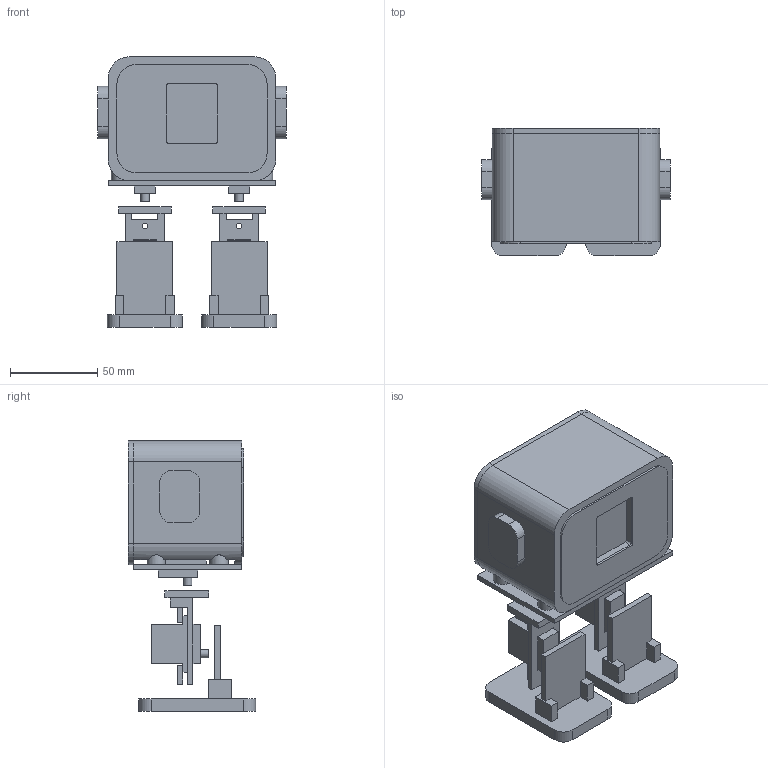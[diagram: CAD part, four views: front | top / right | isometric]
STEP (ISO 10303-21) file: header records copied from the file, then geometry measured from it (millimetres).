
FILE_DESCRIPTION(('Open CASCADE Model'),'2;1');
FILE_NAME('Open CASCADE Shape Model','2026-11-10T16:38:46',('Author'),( 'Open CASCADE'),'Open CASCADE STEP processor 7.8','Open CASCADE 7.8' ,'Unknown');
FILE_SCHEMA(('AUTOMOTIVE_DESIGN { 1 0 10303 214 1 1 1 1 }'));
Length unit declared in the file: millimetre
Products named in the file (26): EMO_B1_prototype; head_shell; rear_cover; hip_deck; electronics_tray; ear_cover_R; ear_cover_L; face_bezel; leg_L; shoe_L; reference_hip_servo_L; reference_ankle_servo_L; hip_clamp_L_1; ankle_clamp_L_1; hip_clamp_L_2; ankle_clamp_L_2; leg_R; shoe_R; reference_hip_servo_R; reference_ankle_servo_R; hip_clamp_R_1; ankle_clamp_R_1; hip_clamp_R_2; ankle_clamp_R_2; reference_lcd; reference_esp32
Assembly tree (25 placements, depth 2):
  EMO_B1_prototype
    head_shell
    rear_cover
    hip_deck
    electronics_tray
    ear_cover_R
    ear_cover_L
    face_bezel
    leg_L
    shoe_L
    reference_hip_servo_L
    reference_ankle_servo_L
    hip_clamp_L_1
    ankle_clamp_L_1
    hip_clamp_L_2
    ankle_clamp_L_2
    leg_R
    shoe_R
    reference_hip_servo_R
    reference_ankle_servo_R
    hip_clamp_R_1
    ankle_clamp_R_1
    hip_clamp_R_2
    ankle_clamp_R_2
    reference_lcd
    reference_esp32
Bounding box: 108 x 73 x 155 mm (x, y, z)
Volume: 266810.3 mm3; surface area: 144499.1 mm2
Topology: 25 solids, 25 shells, 422 faces, 1086 edges, 724 vertices
Faces by surface type: plane 334, cylinder 88
Full cylindrical faces by diameter (mm): 2.7 x8, 3.3 x24, 4.8 x4, 10.4 x4
Entity records: 28813 total; most frequent: CARTESIAN_POINT 6379, DIRECTION 3963, LINE 2593, VECTOR 2593, ORIENTED_EDGE 2172, PCURVE 2172, DEFINITIONAL_REPRESENTATION 2172, EDGE_CURVE 1086
